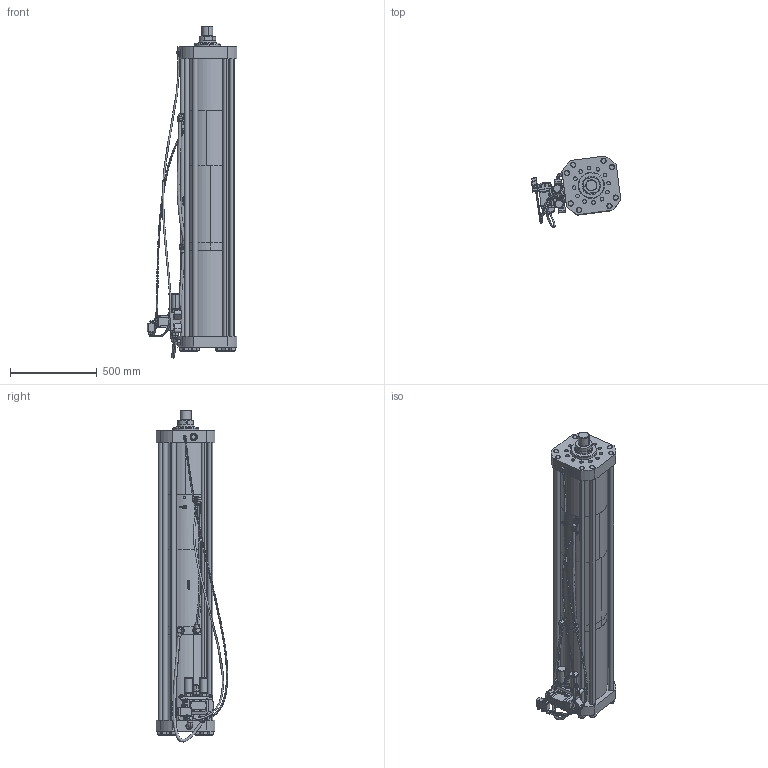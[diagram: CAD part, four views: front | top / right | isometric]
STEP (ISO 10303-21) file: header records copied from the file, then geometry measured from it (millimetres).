
FILE_DESCRIPTION (( 'STEP AP203' ), '1' );
FILE_NAME ('BS100-200-12A.step', '2025-07-31T09:40:29', ( 'Ranlm' ), ( '' ), 'SwSTEP 2.0', 'SolidWorks 2022', '' );
FILE_SCHEMA (( 'CONFIG_CONTROL_DESIGN' ));
Length unit declared in the file: millimetre
Products named in the file (1): BS100-200-12A
Bounding box: 514.58 x 411.59 x 1912.23 mm (x, y, z)
Surface area: 3806054.1 mm2 (no closed solid volume)
Topology: 0 solids, 93 shells, 896 faces, 2723 edges, 1900 vertices
Faces by surface type: plane 404, cylinder 317, cone 121, bspline 33, torus 17, sphere 4
Entity records: 35544 total; most frequent: CARTESIAN_POINT 11249, DIRECTION 5235, ORIENTED_EDGE 4392, EDGE_CURVE 2706, AXIS2_PLACEMENT_3D 1929, VERTEX_POINT 1896, VECTOR 1377, LINE 1377
